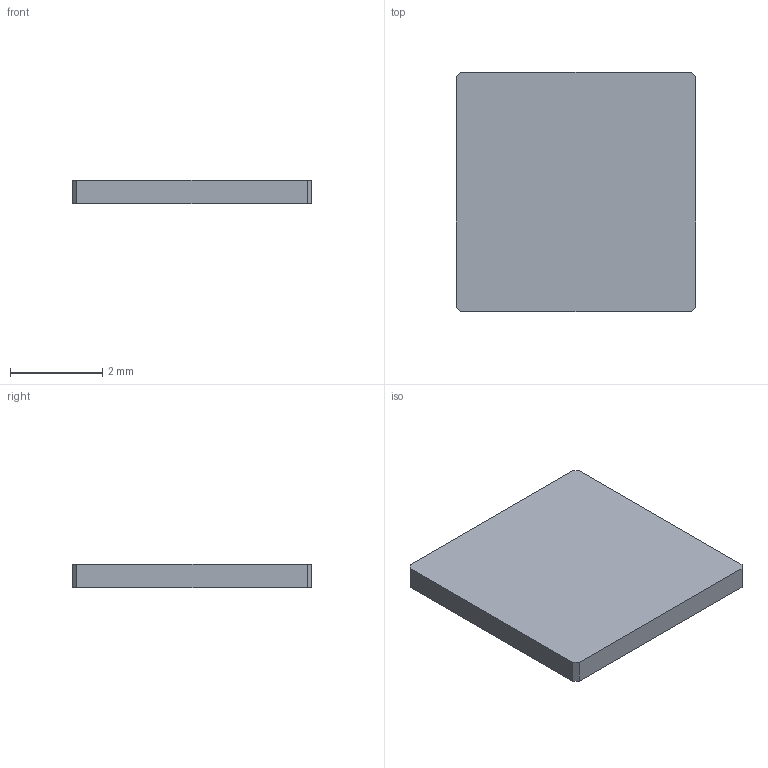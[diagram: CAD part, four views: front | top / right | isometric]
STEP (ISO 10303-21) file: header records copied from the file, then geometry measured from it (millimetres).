
FILE_DESCRIPTION (( 'STEP AP203' ), '1' );
FILE_NAME ('25苤弇痄怢腔苤結え.STEP', '2026-10-15T07:51:52', ( '' ), ( '' ), 'SwSTEP 2.0', 'SolidWorks 2024', '' );
FILE_SCHEMA (( 'CONFIG_CONTROL_DESIGN' ));
Length unit declared in the file: millimetre
Products named in the file (1): 25小位移台的小挡片
Bounding box: 5.2 x 5.2 x 0.5 mm (x, y, z)
Volume: 13.5 mm3; surface area: 64.3 mm2
Topology: 1 solids, 1 shells, 10 faces, 24 edges, 16 vertices
Faces by surface type: plane 10
Entity records: 365 total; most frequent: CARTESIAN_POINT 51, ORIENTED_EDGE 48, DIRECTION 46, VECTOR 24, LINE 24, EDGE_CURVE 24, VERTEX_POINT 16, AXIS2_PLACEMENT_3D 11
